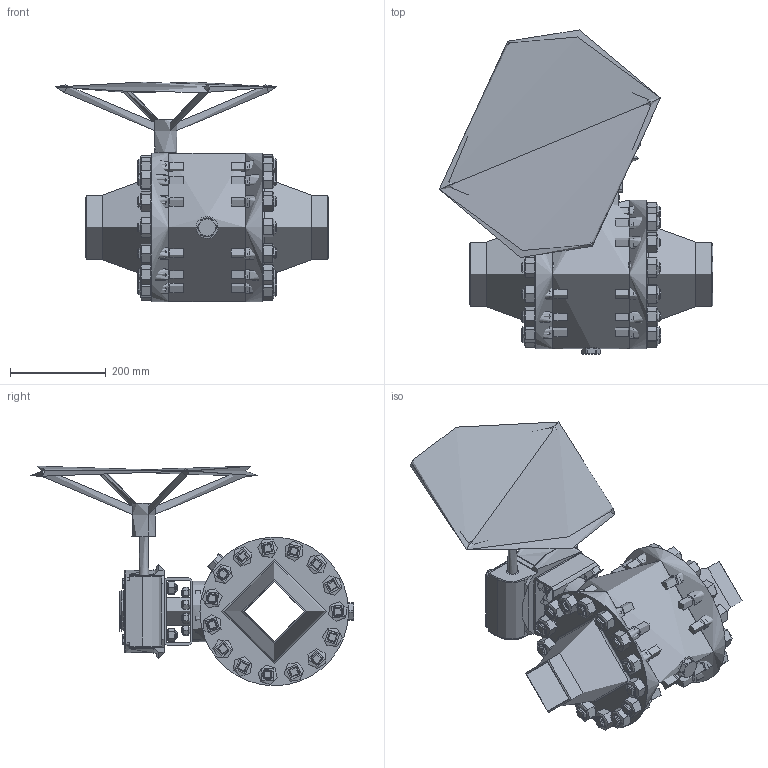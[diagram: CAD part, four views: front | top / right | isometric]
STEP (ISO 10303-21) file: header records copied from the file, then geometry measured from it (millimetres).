
FILE_DESCRIPTION(('STEP AP203'), '1');
FILE_NAME('ZARDP 125.080.40.P.stp', '2013-12-06T13:12:13', ($), ($), 'ASCON STEP Converter 1.3', 'Kompas 3D', '');
FILE_SCHEMA(('CONFIG_CONTROL_DESIGN','SUPPORT_RESOURCE_SCHEMA'));
Length unit declared in the file: millimetre
Products named in the file (1): 52
Bounding box: 571.06 x 675.28 x 458 mm (x, y, z)
Topology: 86 solids, 87 shells, 2865 faces, 6863 edges, 4305 vertices
Faces by surface type: plane 1434, cylinder 624, cone 536, torus 165, bspline 56, sphere 34, extrusion 16
Full cylindrical faces by diameter (mm): 4.134 x2, 4.2 x2, 6 x1, 6.647 x4, 8 x4, 9 x4, 10 x12, 10.106 x32, 12 x30, 13 x20, 16 x9, 17 x4, 17.294 x8, 18 x12, 20 x14, 20.752 x30, 22 x2, 23.75 x2, 23.752 x2, 24 x63, 26 x32, 27 x2, 43 x1, 44 x1, 46 x2, 48 x1, 48.2 x1, 58 x1, 58.5 x1, 60 x1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
Entity records: 143737 total; most frequent: CARTESIAN_POINT 79447, ORIENTED_EDGE 13562, DIRECTION 12845, EDGE_CURVE 6784, AXIS2_PLACEMENT_3D 5025, VERTEX_POINT 4299, EDGE_LOOP 3192, ADVANCED_FACE 2874
